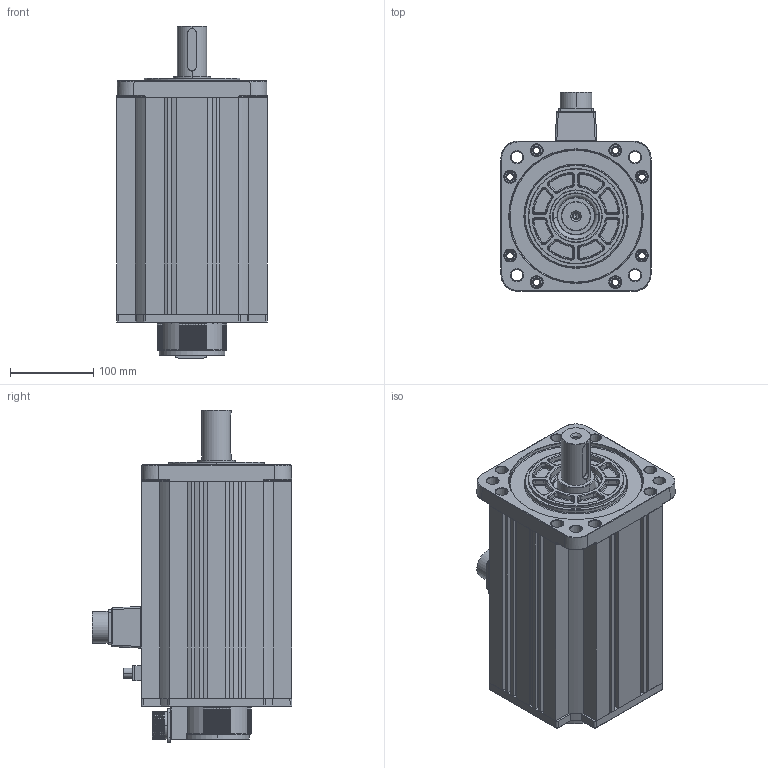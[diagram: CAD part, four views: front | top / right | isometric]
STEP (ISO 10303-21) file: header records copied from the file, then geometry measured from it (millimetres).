
FILE_DESCRIPTION (( 'STEP AP203' ), '1' );
FILE_NAME ('180ZF1500RPM5.5KW.STEP', '2024-08-03T09:27:52', ( 'MicroSoft' ), ( 'MicroSoft' ), 'SwSTEP 2.0', 'SolidWorks 2020', '' );
FILE_SCHEMA (( 'CONFIG_CONTROL_DESIGN' ));
Length unit declared in the file: millimetre
Products named in the file (17): Z180-01-16(堤盄碟); 180ヶ粣創; H12秶雄ん菁釱; 180陔癹弇釱(1); GB╱T 276-2013[两面带密封圈（非接触式）的深沟球轴承[60000-2RZ]6206-2RZ]_6206-2RZ; 180伺服电机全系类BLC制动转子轴_3KW; 180前端盖确定版(1)X; 180-4郋萇埭; Z130A-01-02(编码器后罩壳）; 秶雄ん菜遴; 180綴傷裔X 蜊(1); Z130A-01-03(编码器后罩壳封盖）; Z航插15芯（公头电机端）28; 180陔癹弇釱躇猾菜2(1); Z180-01-04(180-5.5bk儂褲)_5.5秶雄; 180呿蹋晤鎢ん欶褲; 180ZF1500RPM5.5KW
Assembly tree (16 placements, depth 3):
  180ZF1500RPM5.5KW
    180ヶ粣創
    180前端盖确定版(1)X
    180綴傷裔X 蜊(1)
    180呿蹋晤鎢ん欶褲
      Z130A-01-02(编码器后罩壳）
    Z航插15芯（公头电机端）28
    Z130A-01-03(编码器后罩壳封盖）
    Z180-01-04(180-5.5bk儂褲)_5.5秶雄
    Z180-01-16(堤盄碟)
    180-4郋萇埭
    H12秶雄ん菁釱
    秶雄ん菜遴
    180陔癹弇釱(1)
    180陔癹弇釱躇猾菜2(1)
    180伺服电机全系类BLC制动转子轴_3KW
    GB╱T 276-2013[两面带密封圈（非接触式）的深沟球轴承[60000-2RZ]6206-2RZ]_6206-2RZ
Bounding box: 180.33 x 239.17 x 398 mm (x, y, z)
Volume: 2719141.3 mm3; surface area: 824719.8 mm2
Topology: 30 solids, 30 shells, 3657 faces, 8797 edges, 5207 vertices
Faces by surface type: cylinder 1139, plane 746, bspline 678, torus 548, cone 304, sphere 242
Entity records: 136908 total; most frequent: CARTESIAN_POINT 54684, ORIENTED_EDGE 16980, DIRECTION 16837, EDGE_CURVE 8490, AXIS2_PLACEMENT_3D 7019, VERTEX_POINT 5108, EDGE_LOOP 4054, CIRCLE 4020
